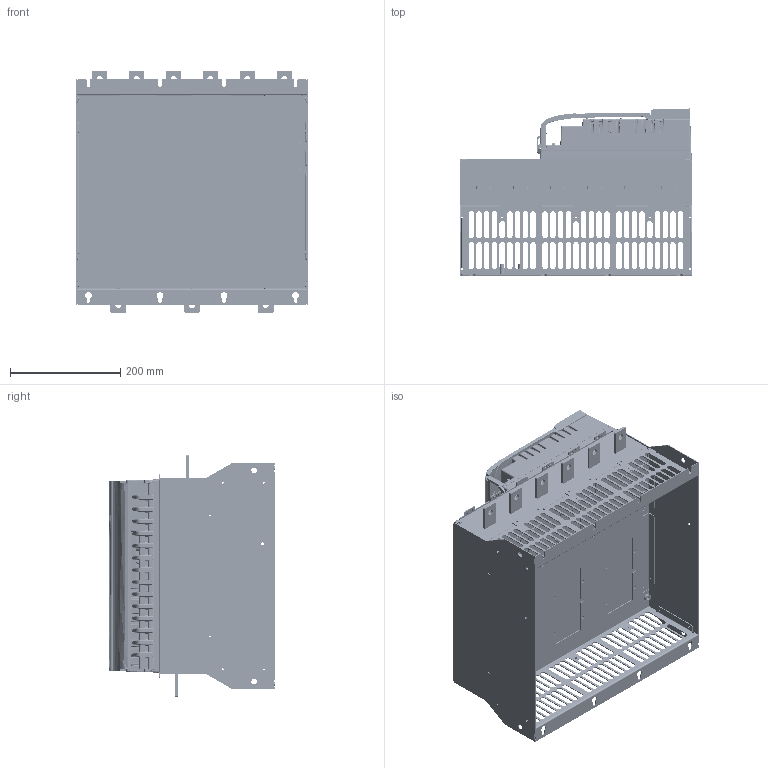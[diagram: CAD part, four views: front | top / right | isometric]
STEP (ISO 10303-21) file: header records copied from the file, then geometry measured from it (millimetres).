
FILE_DESCRIPTION (( 'STEP AP214' ), '1' );
FILE_NAME ('722-13882-00A.STEP', '2012-01-19T23:42:11', ( 'Mech Eng Contractor' ), ( 'AuCom Electronics Ltd' ), 'SwSTEP 2.0', 'SolidWorks 2010', '' );
FILE_SCHEMA (( 'AUTOMOTIVE_DESIGN' ));
Length unit declared in the file: millimetre
Products named in the file (1): 722-13882-00A
Bounding box: 420 x 302.85 x 440.01 mm (x, y, z)
Volume: 14143767.2 mm3; surface area: 1732320.7 mm2
Topology: 1 solids, 20 shells, 11554 faces, 29461 edges, 18050 vertices
Faces by surface type: plane 4159, bspline 2914, cylinder 2751, torus 751, cone 621, sphere 358
Entity records: 589302 total; most frequent: CARTESIAN_POINT 207116, ORIENTED_EDGE 58160, DIRECTION 45813, EDGE_CURVE 29080, VERTEX_POINT 18050, AXIS2_PLACEMENT_3D 15545, VECTOR 14723, LINE 14723
